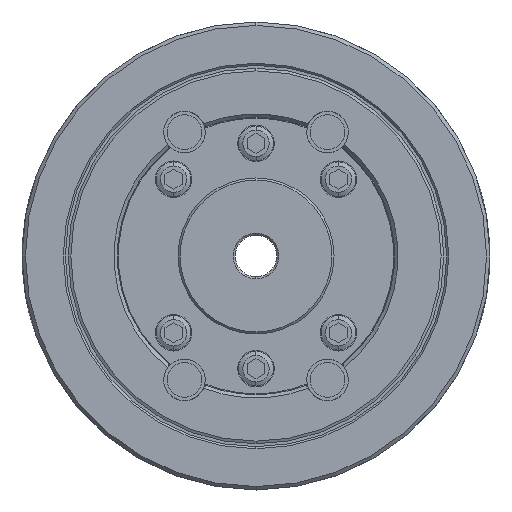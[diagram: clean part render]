
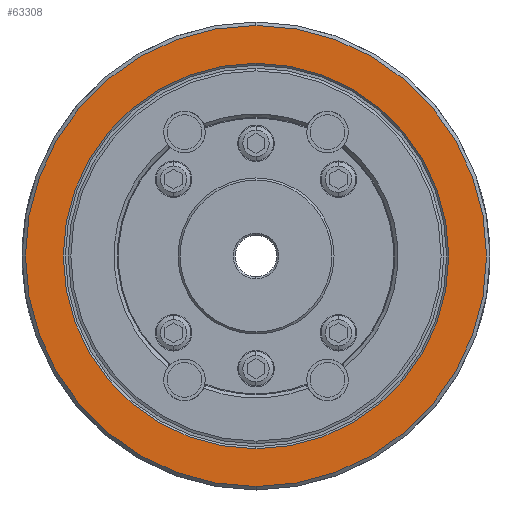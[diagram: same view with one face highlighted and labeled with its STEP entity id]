
A CAD part, left-side view. The second image highlights one B-rep face of the part: STEP entity #63308.
In plain terms, the highlighted planar face has unit normal (-1, 0, 0).
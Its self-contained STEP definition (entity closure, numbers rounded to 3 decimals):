
#94 = EDGE_CURVE ( 'NONE', #49216, #3849, #20877, .T. ) ;
#1167 = AXIS2_PLACEMENT_3D ( 'NONE', #19585, #65860, #35019 ) ;
#1297 = CARTESIAN_POINT ( 'NONE',  ( -60., 0., 0. ) ) ;
#2078 = CIRCLE ( 'NONE', #54932, 66.5 ) ;
#3849 = VERTEX_POINT ( 'NONE', #60602 ) ;
#4387 = AXIS2_PLACEMENT_3D ( 'NONE', #1297, #37224, #6444 ) ;
#6444 = DIRECTION ( 'NONE',  ( 0., 0., -1. ) ) ;
#6984 = CARTESIAN_POINT ( 'NONE',  ( -60., 0., -66.5 ) ) ;
#7109 = AXIS2_PLACEMENT_3D ( 'NONE', #41667, #10907, #46843 ) ;
#9250 = CARTESIAN_POINT ( 'NONE',  ( -60., 0., 66.5 ) ) ;
#10907 = DIRECTION ( 'NONE',  ( 1., 0., 0. ) ) ;
#12101 = DIRECTION ( 'NONE',  ( 1., 0., 0. ) ) ;
#16829 = ORIENTED_EDGE ( 'NONE', *, *, #59339, .T. ) ;
#17167 = ORIENTED_EDGE ( 'NONE', *, *, #34595, .F. ) ;
#19585 = CARTESIAN_POINT ( 'NONE',  ( -60., 0., -66.5 ) ) ;
#19607 = EDGE_CURVE ( 'NONE', #54293, #38095, #50903, .T. ) ;
#20877 = CIRCLE ( 'NONE', #43634, 55.6 ) ;
#22922 = CARTESIAN_POINT ( 'NONE',  ( -60., 0., -55.6 ) ) ;
#26591 = FACE_BOUND ( 'NONE', #34599, .T. ) ;
#30057 = DIRECTION ( 'NONE',  ( 1., 0., 0. ) ) ;
#34595 = EDGE_CURVE ( 'NONE', #38095, #54293, #2078, .T. ) ;
#34599 = EDGE_LOOP ( 'NONE', ( #16829, #42957 ) ) ;
#35019 = DIRECTION ( 'NONE',  ( 0., 0., 1. ) ) ;
#37224 = DIRECTION ( 'NONE',  ( 1., 0., 0. ) ) ;
#38095 = VERTEX_POINT ( 'NONE', #6984 ) ;
#41129 = EDGE_LOOP ( 'NONE', ( #17167, #46117 ) ) ;
#41667 = CARTESIAN_POINT ( 'NONE',  ( -60., 0., 0. ) ) ;
#42878 = CARTESIAN_POINT ( 'NONE',  ( -60., 0., 0. ) ) ;
#42957 = ORIENTED_EDGE ( 'NONE', *, *, #94, .T. ) ;
#43634 = AXIS2_PLACEMENT_3D ( 'NONE', #42878, #12101, #48033 ) ;
#43740 = CIRCLE ( 'NONE', #4387, 55.6 ) ;
#45097 = FACE_OUTER_BOUND ( 'NONE', #41129, .T. ) ;
#46117 = ORIENTED_EDGE ( 'NONE', *, *, #19607, .F. ) ;
#46843 = DIRECTION ( 'NONE',  ( 0., 0., -1. ) ) ;
#48033 = DIRECTION ( 'NONE',  ( 0., 0., -1. ) ) ;
#49216 = VERTEX_POINT ( 'NONE', #22922 ) ;
#50360 = PLANE ( 'NONE',  #1167 ) ;
#50903 = CIRCLE ( 'NONE', #7109, 66.5 ) ;
#54293 = VERTEX_POINT ( 'NONE', #9250 ) ;
#54932 = AXIS2_PLACEMENT_3D ( 'NONE', #60857, #30057, #66087 ) ;
#59339 = EDGE_CURVE ( 'NONE', #3849, #49216, #43740, .T. ) ;
#60602 = CARTESIAN_POINT ( 'NONE',  ( -60., 0., 55.6 ) ) ;
#60857 = CARTESIAN_POINT ( 'NONE',  ( -60., 0., 0. ) ) ;
#63308 = ADVANCED_FACE ( 'NONE', ( #26591, #45097 ), #50360, .T. ) ;
#65860 = DIRECTION ( 'NONE',  ( -1., 0., 0. ) ) ;
#66087 = DIRECTION ( 'NONE',  ( 0., 0., -1. ) ) ;
